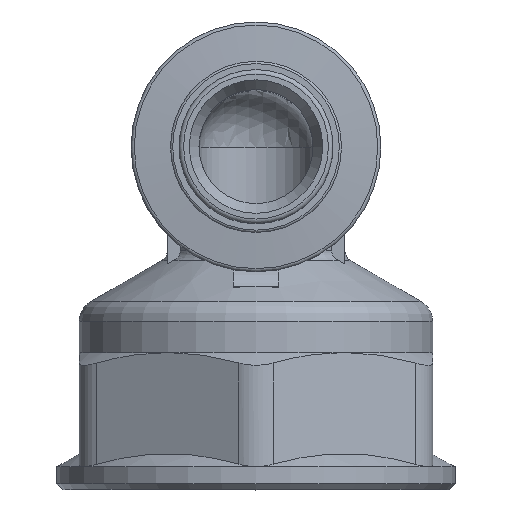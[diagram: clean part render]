
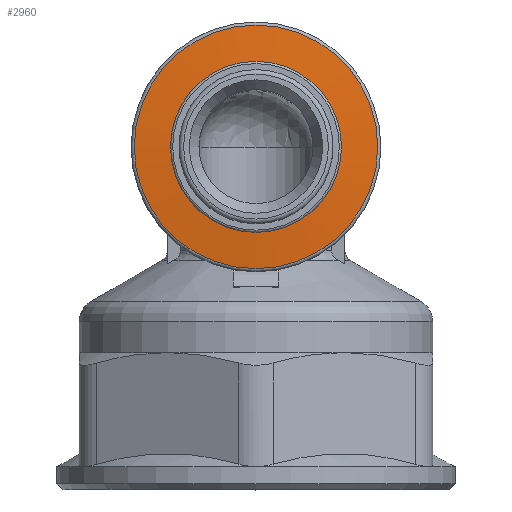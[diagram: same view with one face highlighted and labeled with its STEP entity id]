
A CAD part, top view. The second image highlights one B-rep face of the part: STEP entity #2960.
In plain terms, the highlighted conical face has half-angle 85 degrees and reference radius 8.99 mm.
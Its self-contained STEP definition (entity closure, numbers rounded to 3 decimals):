
#2960=ADVANCED_FACE('',(#5383,#5385),#5387,.T.);
#5383=FACE_OUTER_BOUND('',#5384,.T.);
#5384=EDGE_LOOP('',(#7739));
#5385=FACE_OUTER_BOUND('',#5386,.T.);
#5386=EDGE_LOOP('',(#7740));
#5387=CONICAL_SURFACE('',#5388,8.99,1.484);
#5388=AXIS2_PLACEMENT_3D('',#5389,#5390,#5391);
#5389=CARTESIAN_POINT('',(0.,0.,27.071));
#5390=DIRECTION('',(0.,0.,-1.));
#5391=DIRECTION('',(0.,1.,0.));
#7739=ORIENTED_EDGE('',*,*,#8647,.T.);
#7740=ORIENTED_EDGE('',*,*,#8645,.T.);
#8645=EDGE_CURVE('',#10105,#10105,#10106,.T.);
#8647=EDGE_CURVE('',#10109,#10109,#10110,.F.);
#10105=VERTEX_POINT('',#14950);
#10106=CIRCLE('',#14951,10.676);
#10109=VERTEX_POINT('',#14960);
#10110=CIRCLE('',#14961,7.304);
#14950=CARTESIAN_POINT('',(0.,-10.676,26.924));
#14951=AXIS2_PLACEMENT_3D('',#14952,#14953,#14954);
#14952=CARTESIAN_POINT('',(0.,0.,26.924));
#14953=DIRECTION('',(0.,0.,1.));
#14954=DIRECTION('',(0.,-1.,0.));
#14960=CARTESIAN_POINT('',(0.,-7.304,27.219));
#14961=AXIS2_PLACEMENT_3D('',#14962,#14963,#14964);
#14962=CARTESIAN_POINT('',(0.,0.,27.219));
#14963=DIRECTION('',(0.,0.,1.));
#14964=DIRECTION('',(0.,-1.,0.));
